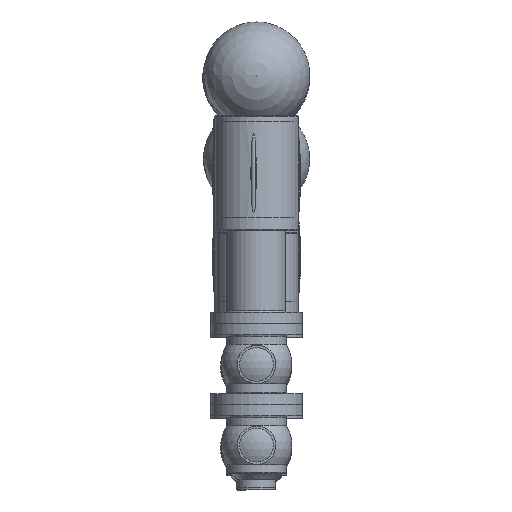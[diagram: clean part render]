
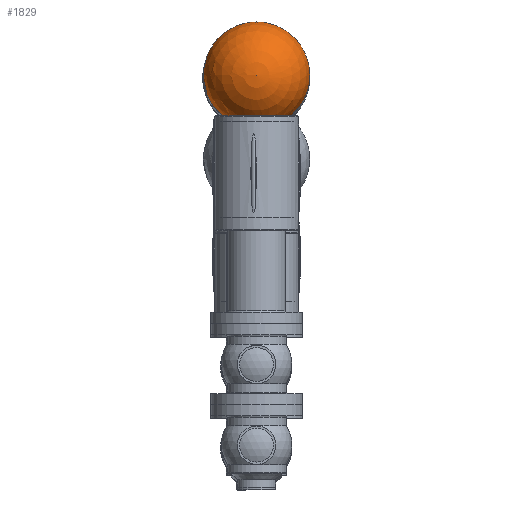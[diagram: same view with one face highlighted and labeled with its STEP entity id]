
A CAD part, front view. The second image highlights one B-rep face of the part: STEP entity #1829.
In plain terms, the highlighted spherical face has radius 72.5 mm.
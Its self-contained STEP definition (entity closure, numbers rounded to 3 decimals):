
#224=SPHERICAL_SURFACE('',#2203,72.5);
#248=FACE_BOUND('',#492,.T.);
#365=FACE_OUTER_BOUND('',#491,.T.);
#491=EDGE_LOOP('',(#1565,#1566));
#492=EDGE_LOOP('',(#1567));
#732=CIRCLE('',#2204,72.5);
#733=CIRCLE('',#2205,46.648);
#915=VERTEX_POINT('',#3655);
#916=VERTEX_POINT('',#3656);
#917=VERTEX_POINT('',#3658);
#1145=EDGE_CURVE('',#915,#916,#732,.T.);
#1146=EDGE_CURVE('',#917,#917,#733,.T.);
#1565=ORIENTED_EDGE('',*,*,#1145,.T.);
#1566=ORIENTED_EDGE('',*,*,#1145,.F.);
#1567=ORIENTED_EDGE('',*,*,#1146,.F.);
#1829=ADVANCED_FACE('',(#365,#248),#224,.T.);
#2203=AXIS2_PLACEMENT_3D('',#3654,#2732,#2733);
#2204=AXIS2_PLACEMENT_3D('',#3657,#2734,#2735);
#2205=AXIS2_PLACEMENT_3D('',#3659,#2736,#2737);
#2732=DIRECTION('center_axis',(0.,0.,1.));
#2733=DIRECTION('ref_axis',(1.,0.,0.));
#2734=DIRECTION('center_axis',(0.,-1.,0.));
#2735=DIRECTION('ref_axis',(-1.,0.,0.));
#2736=DIRECTION('center_axis',(0.,-1.,0.));
#2737=DIRECTION('ref_axis',(1.,0.,0.));
#3654=CARTESIAN_POINT('Origin',(150.,266.5,0.));
#3655=CARTESIAN_POINT('',(150.,266.5,72.5));
#3656=CARTESIAN_POINT('',(150.,266.5,-72.5));
#3657=CARTESIAN_POINT('Origin',(150.,266.5,0.));
#3658=CARTESIAN_POINT('',(196.648,211.,0.));
#3659=CARTESIAN_POINT('Origin',(150.,211.,0.));
